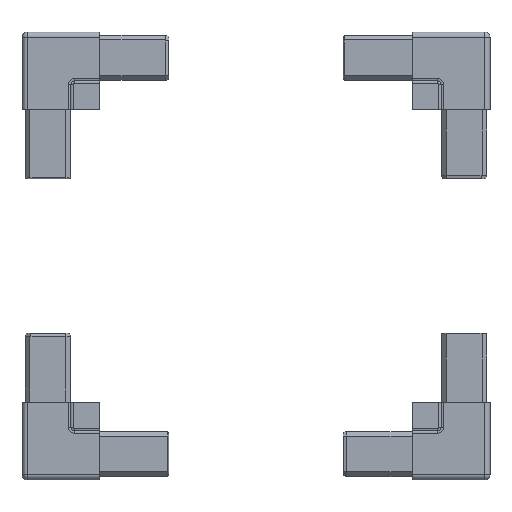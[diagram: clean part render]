
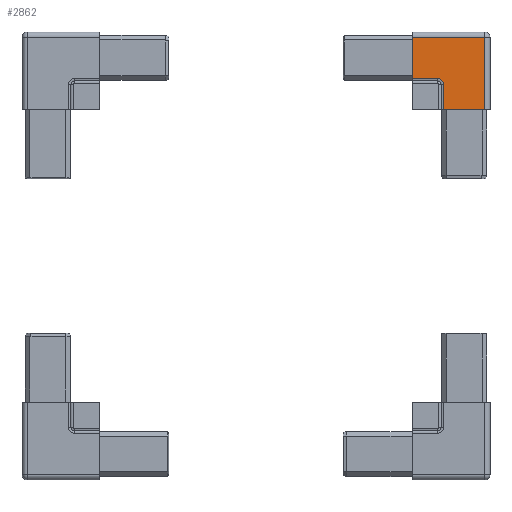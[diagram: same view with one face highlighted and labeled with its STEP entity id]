
A CAD part, top view. The second image highlights one B-rep face of the part: STEP entity #2862.
In plain terms, the highlighted planar face has unit normal (0, 0, 1).
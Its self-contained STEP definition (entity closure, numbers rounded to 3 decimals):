
#90 = CARTESIAN_POINT ( 'NONE',  ( -15.5, 15.5, 15. ) ) ;
#177 = EDGE_CURVE ( 'NONE', #1842, #2981, #1229, .T. ) ;
#220 = CARTESIAN_POINT ( 'NONE',  ( 15., -12., 15. ) ) ;
#279 = CARTESIAN_POINT ( 'NONE',  ( -11.975, 15.5, 15. ) ) ;
#355 = VECTOR ( 'NONE', #3260, 1000. ) ;
#409 = CARTESIAN_POINT ( 'NONE',  ( -30., -12., 15. ) ) ;
#506 = DIRECTION ( 'NONE',  ( 0., -1., 0. ) ) ;
#523 = CARTESIAN_POINT ( 'NONE',  ( 12., 30., 15. ) ) ;
#537 = CARTESIAN_POINT ( 'NONE',  ( 12., 30., 15. ) ) ;
#567 = EDGE_CURVE ( 'NONE', #3478, #2351, #3850, .T. ) ;
#606 = ORIENTED_EDGE ( 'NONE', *, *, #2152, .T. ) ;
#719 = VERTEX_POINT ( 'NONE', #887 ) ;
#812 = EDGE_LOOP ( 'NONE', ( #3382, #2249, #606, #2734, #2203, #3090, #3797 ) ) ;
#887 = CARTESIAN_POINT ( 'NONE',  ( -30., 11.975, 15. ) ) ;
#938 = CARTESIAN_POINT ( 'NONE',  ( 12., -12., 15. ) ) ;
#959 = DIRECTION ( 'NONE',  ( -1., 0., 0. ) ) ;
#1032 = VERTEX_POINT ( 'NONE', #523 ) ;
#1106 = DIRECTION ( 'NONE',  ( -1., 0., 0. ) ) ;
#1229 = LINE ( 'NONE', #1805, #1640 ) ;
#1305 = VECTOR ( 'NONE', #959, 1000. ) ;
#1365 = EDGE_CURVE ( 'NONE', #3755, #719, #2447, .T. ) ;
#1378 = LINE ( 'NONE', #3829, #1909 ) ;
#1461 = FACE_OUTER_BOUND ( 'NONE', #812, .T. ) ;
#1464 = CARTESIAN_POINT ( 'NONE',  ( -15.5, 11.975, 15. ) ) ;
#1640 = VECTOR ( 'NONE', #2136, 1000. ) ;
#1664 = DIRECTION ( 'NONE',  ( 1., 0., 0. ) ) ;
#1733 = DIRECTION ( 'NONE',  ( 0., 0., 1. ) ) ;
#1793 = AXIS2_PLACEMENT_3D ( 'NONE', #2963, #1733, #3233 ) ;
#1805 = CARTESIAN_POINT ( 'NONE',  ( -11.975, 15.5, 15. ) ) ;
#1842 = VERTEX_POINT ( 'NONE', #279 ) ;
#1867 = CARTESIAN_POINT ( 'NONE',  ( -15.5, 11.975, 15. ) ) ;
#1909 = VECTOR ( 'NONE', #1106, 1000. ) ;
#1966 = DIRECTION ( 'NONE',  ( 0., 0., 1. ) ) ;
#1970 = CARTESIAN_POINT ( 'NONE',  ( -11.975, 30., 15. ) ) ;
#2136 = DIRECTION ( 'NONE',  ( 0., 1., 0. ) ) ;
#2152 = EDGE_CURVE ( 'NONE', #2351, #1032, #2280, .T. ) ;
#2203 = ORIENTED_EDGE ( 'NONE', *, *, #177, .F. ) ;
#2247 = VECTOR ( 'NONE', #506, 1000. ) ;
#2249 = ORIENTED_EDGE ( 'NONE', *, *, #567, .T. ) ;
#2280 = LINE ( 'NONE', #537, #355 ) ;
#2351 = VERTEX_POINT ( 'NONE', #938 ) ;
#2447 = LINE ( 'NONE', #1464, #1305 ) ;
#2498 = AXIS2_PLACEMENT_3D ( 'NONE', #90, #1966, #1664 ) ;
#2645 = DIRECTION ( 'NONE',  ( 1., 0., 0. ) ) ;
#2734 = ORIENTED_EDGE ( 'NONE', *, *, #3056, .T. ) ;
#2862 = ADVANCED_FACE ( 'NONE', ( #1461 ), #3865, .T. ) ;
#2963 = CARTESIAN_POINT ( 'NONE',  ( 15., -15., 15. ) ) ;
#2981 = VERTEX_POINT ( 'NONE', #1970 ) ;
#3056 = EDGE_CURVE ( 'NONE', #1032, #2981, #1378, .T. ) ;
#3090 = ORIENTED_EDGE ( 'NONE', *, *, #3586, .F. ) ;
#3181 = EDGE_CURVE ( 'NONE', #719, #3478, #3200, .T. ) ;
#3200 = LINE ( 'NONE', #3523, #2247 ) ;
#3233 = DIRECTION ( 'NONE',  ( 1., 0., 0. ) ) ;
#3260 = DIRECTION ( 'NONE',  ( 0., 1., 0. ) ) ;
#3382 = ORIENTED_EDGE ( 'NONE', *, *, #3181, .T. ) ;
#3452 = VECTOR ( 'NONE', #2645, 1000. ) ;
#3478 = VERTEX_POINT ( 'NONE', #409 ) ;
#3523 = CARTESIAN_POINT ( 'NONE',  ( -30., -15., 15. ) ) ;
#3586 = EDGE_CURVE ( 'NONE', #3755, #1842, #3892, .T. ) ;
#3755 = VERTEX_POINT ( 'NONE', #1867 ) ;
#3797 = ORIENTED_EDGE ( 'NONE', *, *, #1365, .T. ) ;
#3829 = CARTESIAN_POINT ( 'NONE',  ( 15., 30., 15. ) ) ;
#3850 = LINE ( 'NONE', #220, #3452 ) ;
#3865 = PLANE ( 'NONE',  #1793 ) ;
#3892 = CIRCLE ( 'NONE', #2498, 3.525 ) ;
